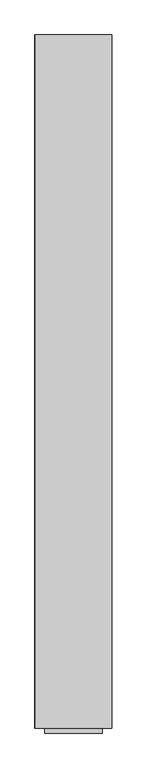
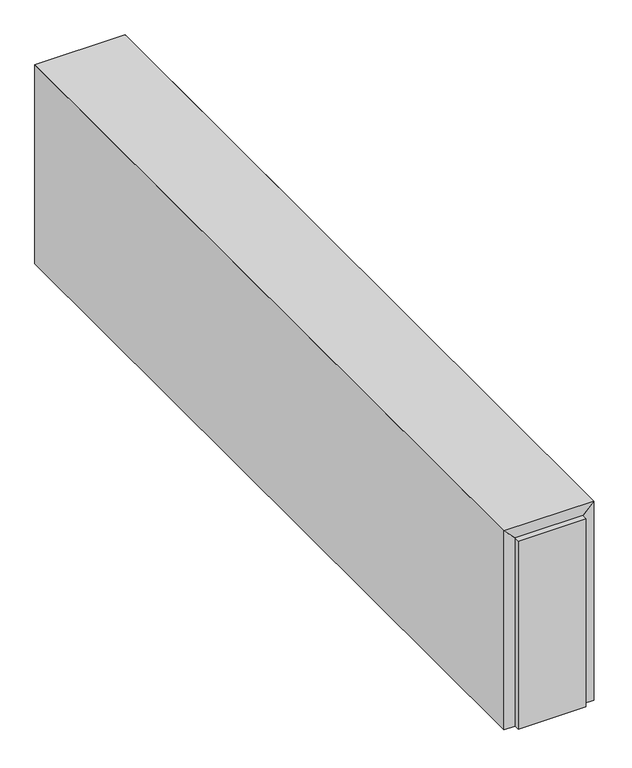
"""IFC4 building model written with IfcOpenShell, lengths in millimetres: proxy geometry, BASYS^OFFICE 3_CORNER COLUMN-PARTS SOLID."""

from ifc_helpers import new_model, si_unit, frame, origin, place, context, project, spatial, polyline, outline, extrude, source, transform, mapped, element, save


def generic_models_96f8618b(model_context):
    return source(origin(), model_context, "Body", "SweptSolid", [
        extrude(outline(polyline([(0.0, 0.0), (19.05, -19.05), (-336.55, -19.05), (-336.55, 0.0), (0.0, 0.0)])), frame((0.0, 9.525, 0.0), z_axis=(0.0, 1.0, 0.0), x_axis=(0.0, 0.0, 1.0)), (0.0, 0.0, 1.0), 1374.775),
        extrude(outline(polyline([(0.0, 1384.3), (114.3, 1384.3), (114.3, 1365.25), (0.0, 1365.25), (0.0, 1384.3)])), frame((0.0, 0.0, -336.55), z_axis=(0.0, 0.0, 1.0), x_axis=(1.0, 0.0, 0.0)), (0.0, 0.0, 1.0), 336.55),
        extrude(outline(polyline([(114.3, 0.0), (0.0, 0.0), (0.0, 28.575), (114.3, 28.575), (114.3, 0.0)])), frame((0.0, 0.0, -336.55), z_axis=(0.0, 0.0, 1.0), x_axis=(1.0, 0.0, 0.0)), (0.0, 0.0, 1.0), 336.55),
        extrude(outline(polyline([(19.05, -19.05), (-57.15, 57.15), (19.05, 133.35), (19.05, -19.05)])), frame((0.0, 9.525, 0.0), z_axis=(0.0, 1.0, 0.0), x_axis=(0.0, 0.0, 1.0)), (0.0, 0.0, 1.0), 1374.775),
        extrude(outline(polyline([(19.05, 133.35), (0.0, 114.3), (-336.55, 114.3), (-336.55, 133.35), (19.05, 133.35)])), frame((0.0, 9.525, 0.0), z_axis=(0.0, 1.0, 0.0), x_axis=(0.0, 0.0, 1.0)), (0.0, 0.0, 1.0), 1374.775),
    ])


if __name__ == "__main__":
    model = new_model("IFC4")
    model_context = context("Model", 3, world=origin())
    ifc_project = project(units=[si_unit("LENGTHUNIT", "METRE", prefix="MILLI")], contexts=[model_context])
    site = spatial("IfcSite", under=ifc_project)
    building = spatial("IfcBuilding", under=site)
    placement = place(None, origin())
    generic_models_shape = generic_models_96f8618b(model_context)
    element("IfcBuildingElementProxy", 1, Name="BASYS^OFFICE 3_CORNER COLUMN-PARTS SOLID", ObjectType="BASYS^OFFICE 3_CORNER COLUMN-PARTS SOLID", at=placement, inside=building, context=model_context, shape_type="MappedRepresentation", body=[
        mapped(generic_models_shape, transform((0.0, 0.0, 0.0), x_axis=(1.0, 0.0, 0.0), y_axis=(0.0, 1.0, 0.0), z_axis=(0.0, 0.0, 1.0))),
    ])
    save(model, "model.ifc")
